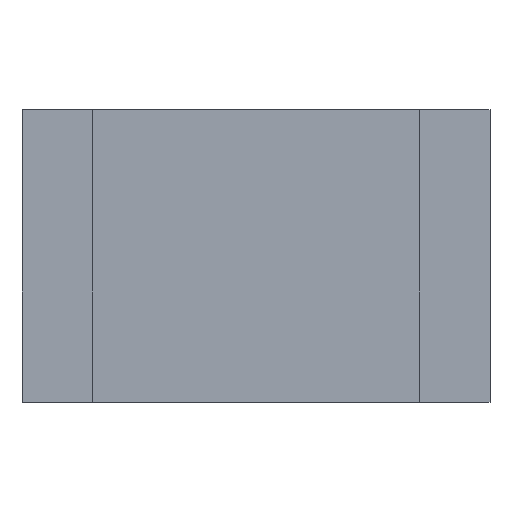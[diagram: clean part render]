
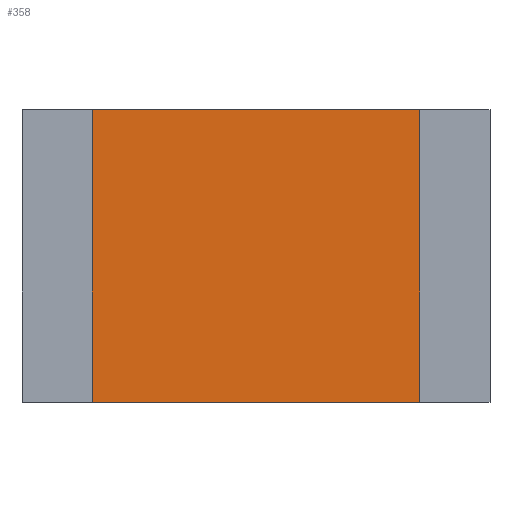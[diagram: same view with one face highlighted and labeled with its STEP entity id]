
A CAD part, top view. The second image highlights one B-rep face of the part: STEP entity #358.
In plain terms, the highlighted planar face has unit normal (0, 0, 1).
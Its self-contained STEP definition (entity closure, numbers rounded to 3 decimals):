
#358=ADVANCED_FACE('',(#586),#588,.T.);
#586=FACE_BOUND('',#587,.T.);
#587=EDGE_LOOP('',(#736,#737,#738,#739));
#588=PLANE('',#589);
#589=AXIS2_PLACEMENT_3D('',#590,#591,#592);
#590=CARTESIAN_POINT('',(0.,0.,0.6));
#591=DIRECTION('',(0.,0.,1.));
#592=DIRECTION('',(-1.,0.,0.));
#736=ORIENTED_EDGE('',*,*,#806,.T.);
#737=ORIENTED_EDGE('',*,*,#810,.T.);
#738=ORIENTED_EDGE('',*,*,#813,.T.);
#739=ORIENTED_EDGE('',*,*,#815,.T.);
#806=EDGE_CURVE('',#921,#919,#922,.T.);
#810=EDGE_CURVE('',#919,#926,#928,.T.);
#813=EDGE_CURVE('',#926,#931,#933,.T.);
#815=EDGE_CURVE('',#931,#921,#935,.T.);
#919=VERTEX_POINT('',#1161);
#921=VERTEX_POINT('',#1165);
#922=LINE('',#1166,#1167);
#926=VERTEX_POINT('',#1176);
#928=LINE('',#1180,#1181);
#931=VERTEX_POINT('',#1187);
#933=LINE('',#1191,#1192);
#935=LINE('',#1197,#1198);
#1161=CARTESIAN_POINT('',(-1.4,1.25,0.6));
#1165=CARTESIAN_POINT('',(1.4,1.25,0.6));
#1166=CARTESIAN_POINT('',(1.4,1.25,0.6));
#1167=VECTOR('',#1168,1.);
#1168=DIRECTION('',(-1.,0.,0.));
#1176=CARTESIAN_POINT('',(-1.4,-1.25,0.6));
#1180=CARTESIAN_POINT('',(-1.4,1.25,0.6));
#1181=VECTOR('',#1182,1.);
#1182=DIRECTION('',(0.,-1.,0.));
#1187=CARTESIAN_POINT('',(1.4,-1.25,0.6));
#1191=CARTESIAN_POINT('',(-1.4,-1.25,0.6));
#1192=VECTOR('',#1193,1.);
#1193=DIRECTION('',(1.,0.,0.));
#1197=CARTESIAN_POINT('',(1.4,-1.25,0.6));
#1198=VECTOR('',#1199,1.);
#1199=DIRECTION('',(0.,1.,0.));
